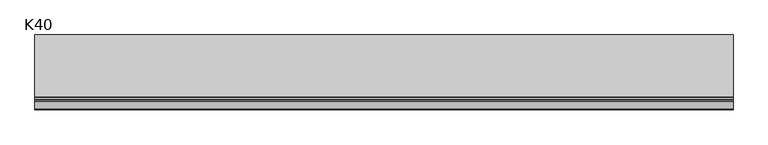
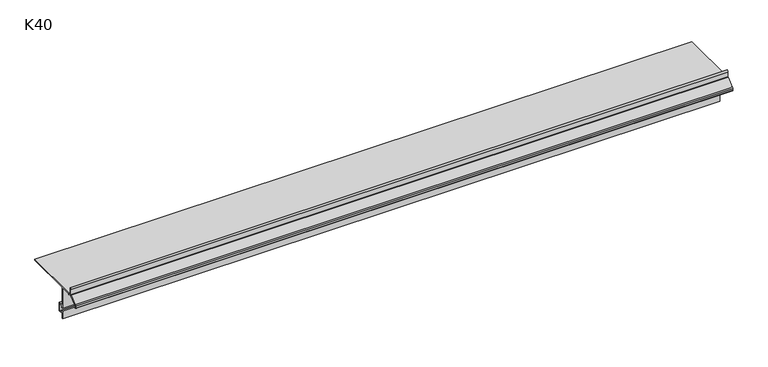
"""IFC4 building model written with IfcOpenShell, lengths in millimetres: proxy geometry, K40 Profil okapowy prosty z rynną : K40."""

from ifc_helpers import new_model, si_unit, point, frame, frame_2d, origin, place, context, project, spatial, polyline, circle_curve, trimmed, segment, composite_curve, outline, extrude, source, transform, mapped, element, save


def k40_b5363764(model_context):
    return source(origin(), model_context, "Body", "SweptSolid", [
        extrude(outline(composite_curve([segment(polyline([(24.790973, -57.0495867), (24.790973, -15.0820716), (5.0997493, -15.0820716), (5.0920266, -17.1021433), (4.0927202, -17.1065163), (4.1008046, -15.0820716), (-2.4887219, -15.0820716), (-15.7425283, -25.4001621)]), True, "CONTINUOUS"), segment(trimmed(circle_curve(frame_2d((-14.529488, -26.9902983)), 2.0), [point((-15.7425283, -25.4001621))], [point((-16.5294511, -27.0024549))], True, "CARTESIAN"), True, "CONTINUOUS"), segment(polyline([(-16.5294511, -27.0024549), (-16.5085763, -30.4367198)]), True, "CONTINUOUS"), segment(trimmed(circle_curve(frame_2d((-17.3591685, -30.3418882)), 0.8558621), [point((-16.5085763, -30.4367198))], [point((-18.2085449, -30.4470529))], False, "CARTESIAN"), True, "CONTINUOUS"), segment(polyline([(-18.2085449, -30.4470529), (-18.2315415, -26.6637113)]), True, "CONTINUOUS"), segment(trimmed(circle_curve(frame_2d((-15.2315969, -26.6454765)), 3.0), [point((-18.2315415, -26.6637113))], [point((-17.0511573, -24.2602721))], False, "CARTESIAN"), True, "CONTINUOUS"), segment(polyline([(-17.0511573, -24.2602721), (-3.1518737, -13.3523721)]), True, "CONTINUOUS"), segment(trimmed(circle_curve(frame_2d((-4.1173519, -12.3385419)), 1.4), [point((-3.1518737, -13.3523721))], [point((-2.7242139, -12.4769853))], True, "CARTESIAN"), True, "CONTINUOUS"), segment(polyline([(-2.7242139, -12.4769853), (-2.7829292, -2.8169668)]), True, "CONTINUOUS"), segment(trimmed(circle_curve(frame_2d((0.0170191, -2.7999483)), 2.8), [point((-2.7829292, -2.8169668))], [point((0.0, 0.0))], False, "CARTESIAN"), True, "CONTINUOUS"), segment(polyline([(0.0, 0.0), (0.0109399, -1.7998068)]), True, "CONTINUOUS"), segment(trimmed(circle_curve(frame_2d((0.0120135, -2.7877506)), 0.9879444), [point((0.0109399, -1.7998068))], [point((-0.9757443, -2.7685501))], True, "CARTESIAN"), True, "CONTINUOUS"), segment(polyline([(-0.9757443, -2.7685501), (-0.9115875, -13.3289895), (116.4889281, -13.3289895), (116.4889281, -15.0820716), (26.3208839, -15.0820716), (26.3208839, -51.2995887), (35.5016753, -51.2995887), (35.5016753, -68.292524), (26.5440554, -68.292524), (26.5440554, -78.1012637), (24.8312026, -78.1012637), (24.8312026, -62.5508482), (27.3339394, -62.5508482), (27.3339394, -66.7941249), (33.8031079, -66.7941249), (33.8031079, -52.7987457), (27.3231899, -52.7987457), (27.3231899, -57.0495867), (24.790973, -57.0495867)]), True, "CONTINUOUS")], self_intersect=False)), frame((0.0, 0.0, 0.0), z_axis=(1.0, 0.0, 0.0), x_axis=(0.0, 1.0, 0.0)), (0.0, 0.0, 1.0), 1255.1252417),
    ])


if __name__ == "__main__":
    model = new_model("IFC4")
    model_context = context("Model", 3, world=origin())
    ifc_project = project(units=[si_unit("LENGTHUNIT", "METRE", prefix="MILLI")], contexts=[model_context])
    site = spatial("IfcSite", under=ifc_project)
    building = spatial("IfcBuilding", under=site)
    placement = place(None, origin())
    k40_shape = k40_b5363764(model_context)
    element("IfcBuildingElementProxy", 1, Name="K40 Profil okapowy prosty z rynną : K40", ObjectType="K40 Profil okapowy prosty z rynną : K40", at=placement, inside=building, context=model_context, shape_type="MappedRepresentation", body=[
        mapped(k40_shape, transform((0.0, 0.0, 0.0), x_axis=(1.0, 0.0, 0.0), y_axis=(0.0, 1.0, 0.0), z_axis=(0.0, 0.0, 1.0))),
    ])
    save(model, "model.ifc")
